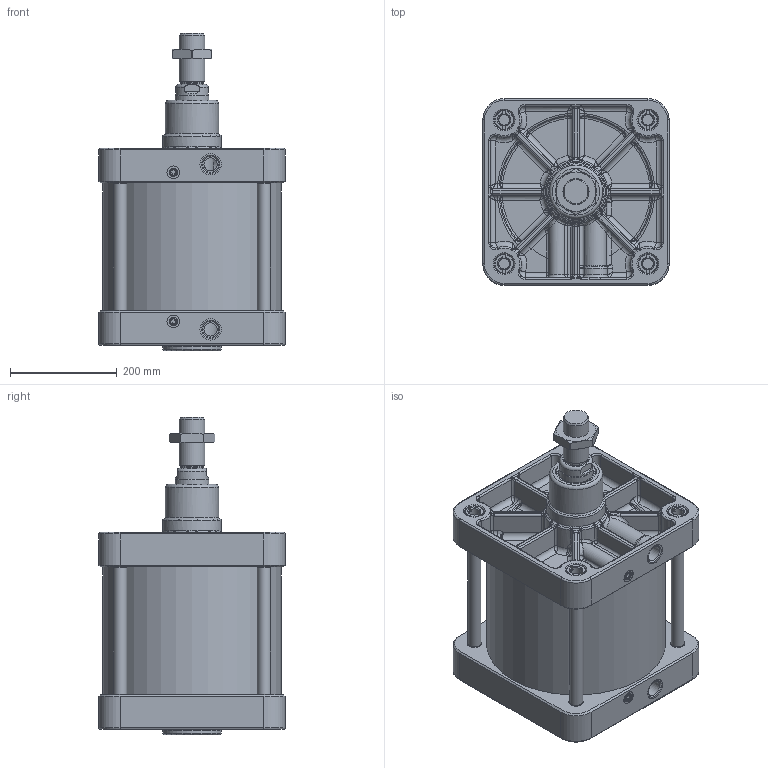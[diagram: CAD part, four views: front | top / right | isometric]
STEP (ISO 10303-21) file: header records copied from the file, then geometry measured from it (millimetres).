
FILE_DESCRIPTION(/* description */ (''),/* implementation_level */ '2;1');
FILE_NAME(/* name */ 'T:\Archivio Inventor\- 00 NUOVI STP PER SITO CON STELO CHE SI MUOVE\SERIE H - U\SERIE UDM\UDM320.---.GS.M\UDM320.150.GS.M.stp',/* time_stamp */ '2020-04-29T16:29:02+02:00',/* author */ ('carlo.corazza'),/* organization */ (''),/* preprocessor_version */ 'ST-DEVELOPER v16.5',/* originating_system */ 'Autodesk Inventor 2017',/* authorisation */ '');
FILE_SCHEMA (('AUTOMOTIVE_DESIGN { 1 0 10303 214 3 1 1 }'));
Length unit declared in the file: millimetre
Products named in the file (7): UDM320.150.GS.M; TP; STELO-150; TA; CORPO-150; TIRANTE-150; 29.2048.000.0
Assembly tree (9 placements, depth 2):
  UDM320.150.GS.M
    TP
    STELO-150
    TA
    TIRANTE-150  x4
    CORPO-150
    29.2048.000.0
Bounding box: 350 x 350 x 596 mm (x, y, z)
Volume: 13036617.1 mm3; surface area: 1853669.6 mm2
Topology: 9 solids, 16 shells, 1710 faces, 3937 edges, 2221 vertices
Faces by surface type: cylinder 439, bspline 432, plane 380, torus 252, cone 115, sphere 92
Full cylindrical faces by diameter (mm): 8 x2, 9 x1, 10 x1, 11 x2, 11.2 x2, 12 x2, 12.376 x1, 13.4 x4, 14 x2, 15.8 x4, 16 x6, 20.752 x8, 24 x10, 24.5 x8, 25 x6, 30.291 x2, 36 x9, 37 x8, 40 x2, 44.8 x1, 45.835 x1, 48 x1, 62 x1, 63 x1, 64 x1, 64.293 x1, 65.8 x1, 73 x1, 75 x3, 100 x1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
Entity records: 64917 total; most frequent: CARTESIAN_POINT 27888, DIRECTION 7314, ORIENTED_EDGE 7088, EDGE_CURVE 3544, AXIS2_PLACEMENT_3D 3113, VERTEX_POINT 2134, EDGE_LOOP 1966, FACE_OUTER_BOUND 1683
